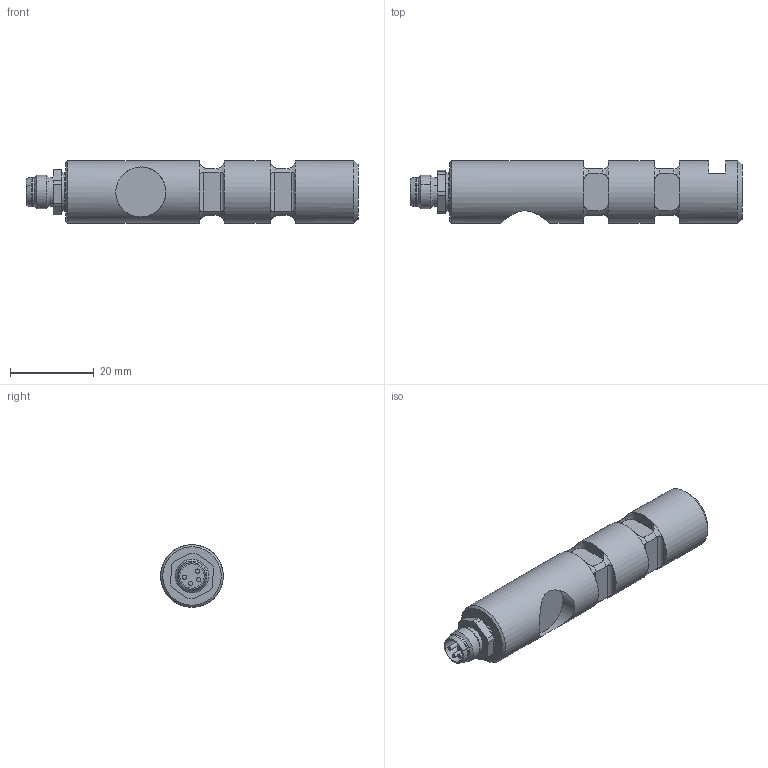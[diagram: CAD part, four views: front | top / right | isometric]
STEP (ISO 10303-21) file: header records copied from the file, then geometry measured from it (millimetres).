
FILE_DESCRIPTION(/* description */ ('Alibre Inc.'),/* implementation_level */ '2;1');
FILE_NAME(/* name */ 'export-1F173961-ADAA-4CD8-9644-AC3CCBB4AA8E',/* time_stamp */ '2021-10-01T15:50:15+02:00',/* author */ (''),/* organization */ (''),/* preprocessor_version */ 'ST-DEVELOPER v17',/* originating_system */ 'Alibre',/* authorisation */ '');
FILE_SCHEMA (('CONFIG_CONTROL_DESIGN'));
Length unit declared in the file: millimetre
Bounding box: 79.5 x 15 x 15 mm (x, y, z)
Volume: 11329.6 mm3; surface area: 5028.9 mm2
Topology: 2 solids, 2 shells, 165 faces, 401 edges, 257 vertices
Faces by surface type: cylinder 75, plane 61, torus 18, cone 11
Full cylindrical faces by diameter (mm): 1 x4, 7.5 x1, 12 x1, 15 x3
Entity records: 5917 total; most frequent: CARTESIAN_POINT 2114, ORIENTED_EDGE 788, DIRECTION 615, EDGE_CURVE 394, VERTEX_POINT 263, AXIS2_PLACEMENT_3D 263, FACE_BOUND 195, EDGE_LOOP 194
